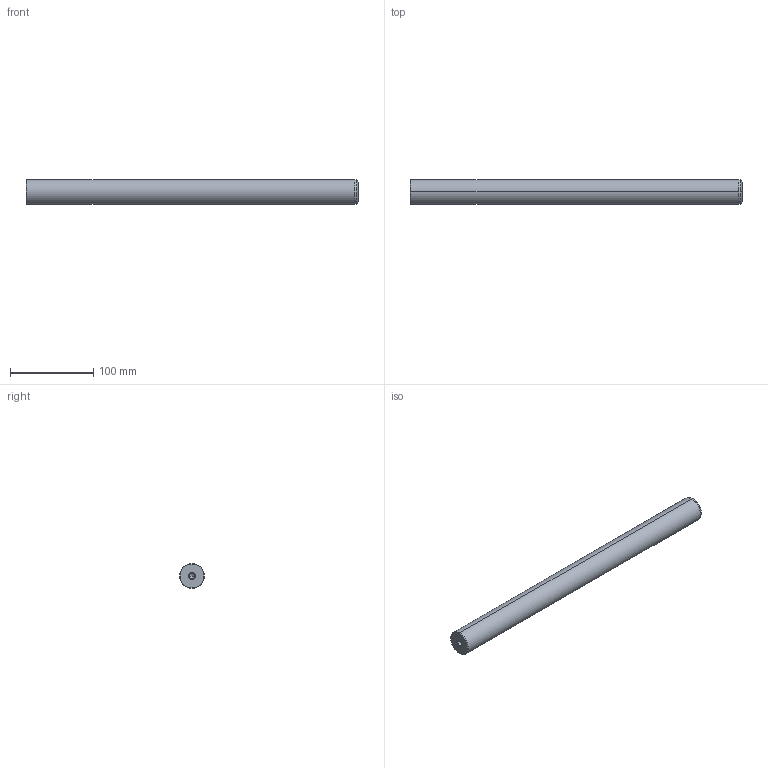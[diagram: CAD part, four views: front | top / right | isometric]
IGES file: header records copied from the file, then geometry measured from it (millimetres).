
Start section: START RECORD GO HERE.
Global section: file name: 720-30x400.igs; native system: DASSAULT SYSTEMES CATIA V5 R20 - www.3ds.com; preprocessor: CATIA Version 5 Release 20 ; author: Utente; organization: NB04-ASUS; date: 20210101.132711; units: millimetre
Bounding box: 400 x 30 x 30 mm (x, y, z)
Surface area: 39909.8 mm2 (no closed solid volume)
Topology: 0 solids, 0 shells, 22 faces, 120 edges, 116 vertices
Faces by surface type: revolution 20, plane 2
